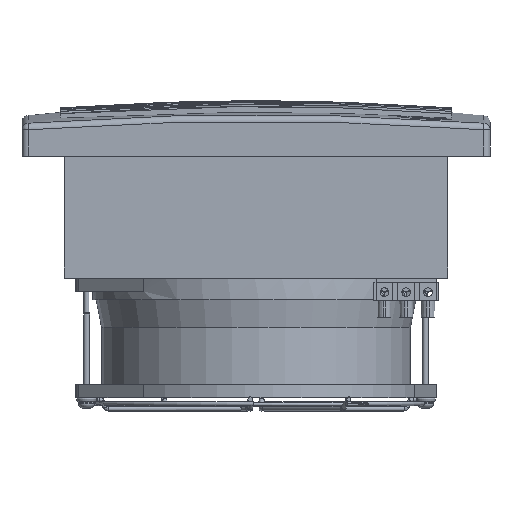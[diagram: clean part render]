
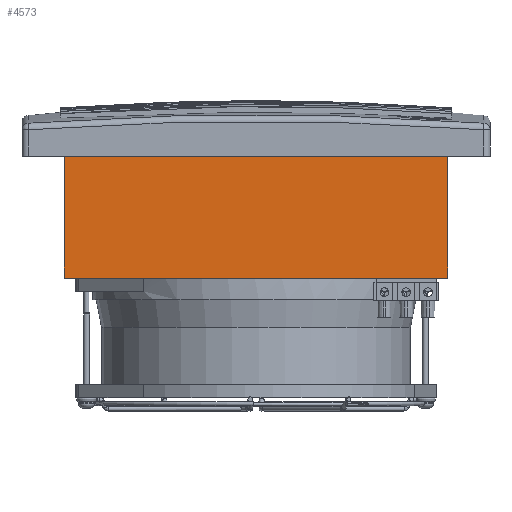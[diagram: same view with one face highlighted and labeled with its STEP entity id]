
A CAD part, front view. The second image highlights one B-rep face of the part: STEP entity #4573.
In plain terms, the highlighted planar face has unit normal (0, -1, 0).
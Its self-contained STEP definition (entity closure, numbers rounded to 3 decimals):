
#1627 = CARTESIAN_POINT ( 'NONE',  ( 176., -176., -56. ) ) ;
#1705 = VERTEX_POINT ( 'NONE', #1627 ) ;
#4165 = ORIENTED_EDGE ( 'NONE', *, *, #20613, .T. ) ;
#4573 = ADVANCED_FACE ( 'NONE', ( #25026 ), #23422, .F. ) ;
#4836 = ORIENTED_EDGE ( 'NONE', *, *, #17718, .T. ) ;
#5555 = EDGE_CURVE ( 'NONE', #1705, #10751, #7275, .T. ) ;
#6377 = CARTESIAN_POINT ( 'NONE',  ( 0., -176., -56. ) ) ;
#7222 = CARTESIAN_POINT ( 'NONE',  ( 176., -176., 0. ) ) ;
#7275 = LINE ( 'NONE', #22330, #27512 ) ;
#8911 = CARTESIAN_POINT ( 'NONE',  ( 176., -176., 0. ) ) ;
#8978 = CARTESIAN_POINT ( 'NONE',  ( 176., -176., -56. ) ) ;
#10674 = VERTEX_POINT ( 'NONE', #12927 ) ;
#10751 = VERTEX_POINT ( 'NONE', #6377 ) ;
#11050 = ORIENTED_EDGE ( 'NONE', *, *, #5555, .F. ) ;
#11587 = VECTOR ( 'NONE', #13490, 1000. ) ;
#12927 = CARTESIAN_POINT ( 'NONE',  ( 0., -176., 0. ) ) ;
#13364 = DIRECTION ( 'NONE',  ( 0., 0., 1. ) ) ;
#13490 = DIRECTION ( 'NONE',  ( -1., 0., 0. ) ) ;
#13970 = VECTOR ( 'NONE', #24830, 1000. ) ;
#15503 = AXIS2_PLACEMENT_3D ( 'NONE', #23701, #25674, #23119 ) ;
#16289 = EDGE_LOOP ( 'NONE', ( #4836, #20690, #11050, #4165 ) ) ;
#17455 = LINE ( 'NONE', #26883, #29376 ) ;
#17687 = LINE ( 'NONE', #8911, #11587 ) ;
#17718 = EDGE_CURVE ( 'NONE', #23314, #10674, #17687, .T. ) ;
#18316 = DIRECTION ( 'NONE',  ( -1., 0., 0. ) ) ;
#20023 = LINE ( 'NONE', #8978, #13970 ) ;
#20613 = EDGE_CURVE ( 'NONE', #1705, #23314, #20023, .T. ) ;
#20690 = ORIENTED_EDGE ( 'NONE', *, *, #21755, .F. ) ;
#21755 = EDGE_CURVE ( 'NONE', #10751, #10674, #17455, .T. ) ;
#22330 = CARTESIAN_POINT ( 'NONE',  ( 176., -176., -56. ) ) ;
#23119 = DIRECTION ( 'NONE',  ( 0., 0., -1. ) ) ;
#23314 = VERTEX_POINT ( 'NONE', #7222 ) ;
#23422 = PLANE ( 'NONE',  #15503 ) ;
#23701 = CARTESIAN_POINT ( 'NONE',  ( 176., -176., -56. ) ) ;
#24830 = DIRECTION ( 'NONE',  ( 0., 0., 1. ) ) ;
#25026 = FACE_OUTER_BOUND ( 'NONE', #16289, .T. ) ;
#25674 = DIRECTION ( 'NONE',  ( 0., 1., 0. ) ) ;
#26883 = CARTESIAN_POINT ( 'NONE',  ( 0., -176., -56. ) ) ;
#27512 = VECTOR ( 'NONE', #18316, 1000. ) ;
#29376 = VECTOR ( 'NONE', #13364, 1000. ) ;
